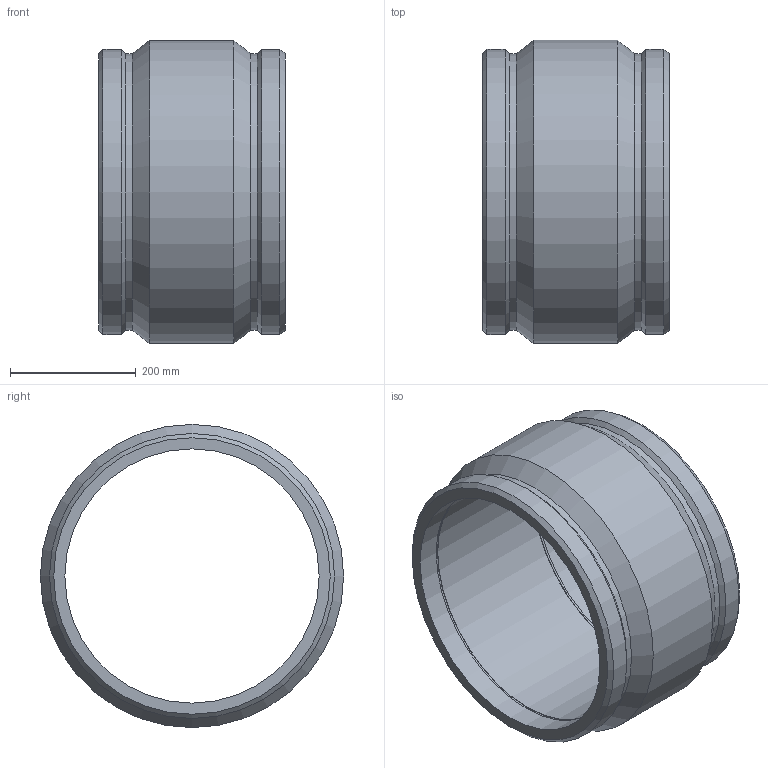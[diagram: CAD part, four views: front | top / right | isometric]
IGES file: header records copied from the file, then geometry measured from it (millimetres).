
Global section: file name: 5901B003160.ipt; native system: Autodesk Inventor 2019; preprocessor: unknown; author: KIM; date: 20210830.100846; units: inch
Bounding box: 297.18 x 482.6 x 482.6 mm (x, y, z)
Volume: 12628532.2 mm3; surface area: 900068.4 mm2
Topology: 1 solids, 1 shells, 32 faces, 70 edges, 46 vertices
Faces by surface type: plane 10, cone 8, cylinder 7, revolution 7
Full cylindrical faces by diameter (mm): 4 x2, 440.035 x2, 453.644 x2, 482.6 x1
